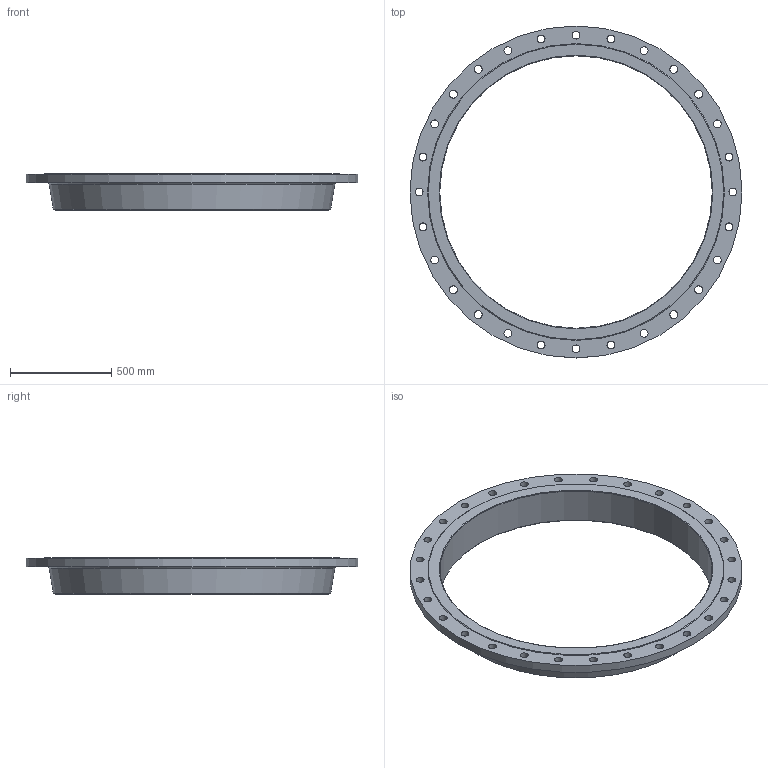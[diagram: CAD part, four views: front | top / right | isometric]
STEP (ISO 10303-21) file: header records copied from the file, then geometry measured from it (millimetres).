
FILE_DESCRIPTION(/* description */ (''),/* implementation_level */ '2;1');
FILE_NAME(/* name */ 'C:\Users\D\Documents\Inventor\HP\JIS\フランジ\水道用フランジF12\RF\ffws_rf_1350_1.stp',/* time_stamp */ '2024-08-28T10:14:45+09:00',/* author */ ('D'),/* organization */ (''),/* preprocessor_version */ 'ST-DEVELOPER v18',/* originating_system */ 'Autodesk Inventor 2020',/* authorisation */ '');
FILE_SCHEMA (('AUTOMOTIVE_DESIGN { 1 0 10303 214 3 1 1 }'));
Length unit declared in the file: millimetre
Products named in the file (1): ffws_rf_80
Bounding box: 1642 x 1642 x 180 mm (x, y, z)
Volume: 41456743.4 mm3; surface area: 2912195.5 mm2
Topology: 1 solids, 1 shells, 39 faces, 138 edges, 103 vertices
Faces by surface type: cylinder 30, plane 4, cone 3, torus 2
Full cylindrical faces by diameter (mm): 39 x28, 1347.6 x1, 1642 x1
Entity records: 1758 total; most frequent: DIRECTION 323, CARTESIAN_POINT 281, ORIENTED_EDGE 276, AXIS2_PLACEMENT_3D 145, EDGE_CURVE 138, CIRCLE 105, VERTEX_POINT 103, EDGE_LOOP 99
